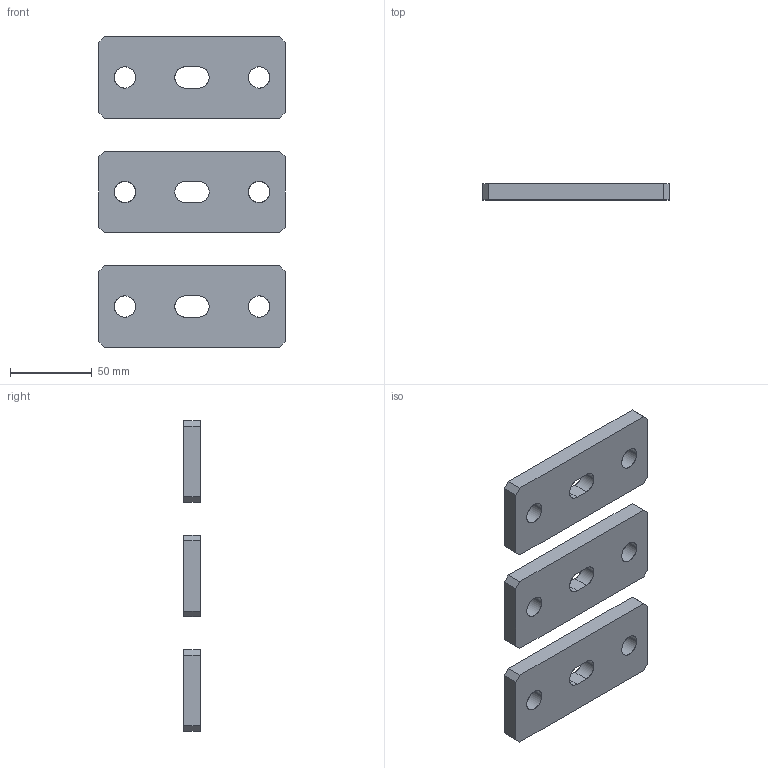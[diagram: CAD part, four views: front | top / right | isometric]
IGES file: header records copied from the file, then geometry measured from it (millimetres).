
Start section: SolidWorks IGES file using analytic representation for surfaces
Global section: file name: \\Brjgs100\DFSWEG\GROUPS\BR_SC_JGS_WA_TECNICO\ENG\Usuarios\Rodrigob\conversão\Disjuntor de Caixa Moldada\Produto\Acessorios ACW\BE ACW800\BE ACW800.IGS; native system: SolidWorks 2018; preprocessor: SolidWorks 2018; author: rodrigob; date: 211110.093507; units: millimetre
Bounding box: 114 x 10 x 190 mm (x, y, z)
Surface area: 44789.4 mm2 (no closed solid volume)
Topology: 0 solids, 0 shells, 57 faces, 840 edges, 840 vertices
Faces by surface type: bspline 36, revolution 21
